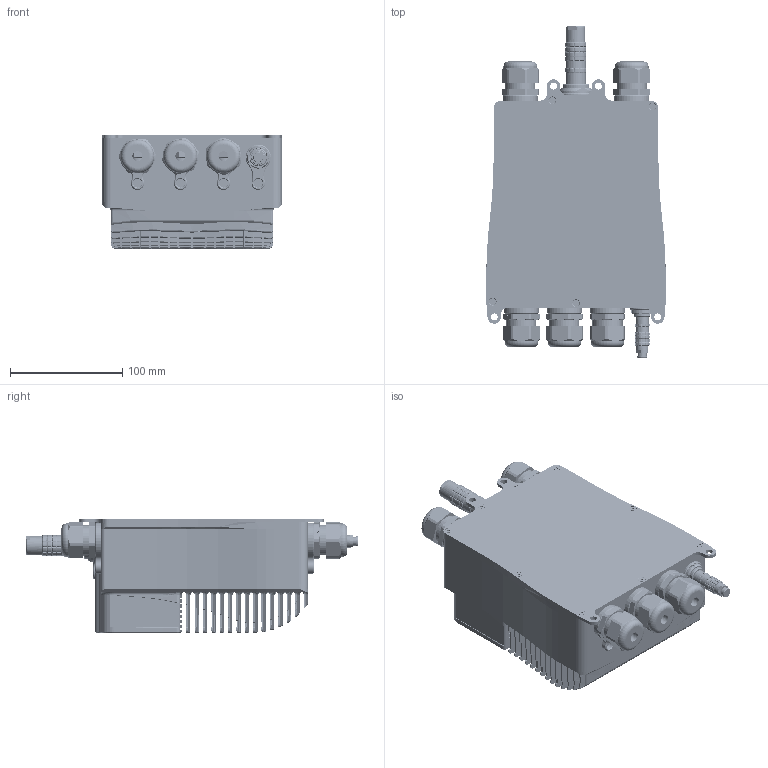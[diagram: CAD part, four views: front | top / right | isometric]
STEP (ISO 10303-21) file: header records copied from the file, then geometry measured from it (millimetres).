
FILE_DESCRIPTION(/* description */ (''),/* implementation_level */ '2;1');
FILE_NAME(/* name */ 'D:\Releases\MC24\3d_MC24\OUTER\OUTER-101010_website\MC24-3d_MC24-OUTER-101010.stp',/* time_stamp */ '2022-03-30T17:33:12+02:00',/* author */ ('jbs3'),/* organization */ (''),/* preprocessor_version */ 'ST-DEVELOPER v17',/* originating_system */ 'Autodesk Inventor 2018',/* authorisation */ '');
FILE_SCHEMA (('AUTOMOTIVE_DESIGN { 1 0 10303 214 3 1 1 }'));
Products named in the file (1): 000 Ensamblaje MC24 OUTER_Substitute_1
Bounding box: 160 x 296.27 x 101.79 mm (x, y, z)
Volume: 612004.6 mm3; surface area: 511596.7 mm2
Topology: 53 solids, 53 shells, 5768 faces, 15598 edges, 10254 vertices
Faces by surface type: plane 2502, cylinder 2205, cone 575, bspline 250, torus 191, sphere 45
Full cylindrical faces by diameter (mm): 0.25 x2, 0.5 x28, 0.6 x48, 0.99 x1, 0.991 x2, 1 x3, 1.016 x1, 1.2 x8, 1.5 x30, 2.25 x60, 2.364 x1, 2.374 x1, 2.375 x2, 2.459 x17, 2.5 x16, 3 x18, 3.2 x8, 3.242 x12, 3.4 x13, 4.216 x1, 4.5 x24, 5.95 x1, 6 x9, 6.2 x4, 6.647 x5, 7.177 x48, 7.8 x1, 8 x7, 8.4 x5, 9 x6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
Entity records: 203237 total; most frequent: CARTESIAN_POINT 51591, ORIENTED_EDGE 31142, DIRECTION 30167, EDGE_CURVE 15571, AXIS2_PLACEMENT_3D 11509, VERTEX_POINT 10254, LINE 7149, VECTOR 7149
